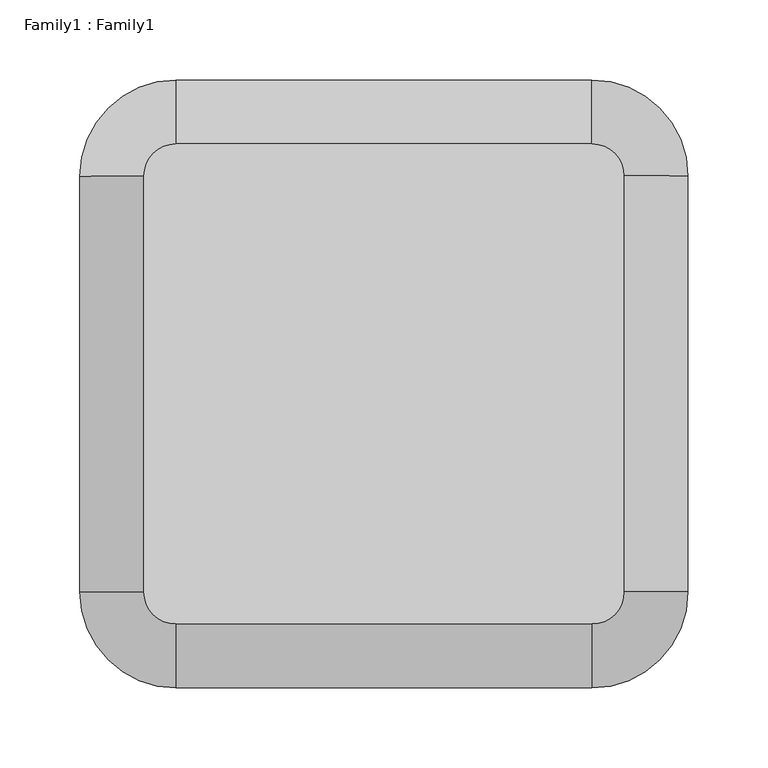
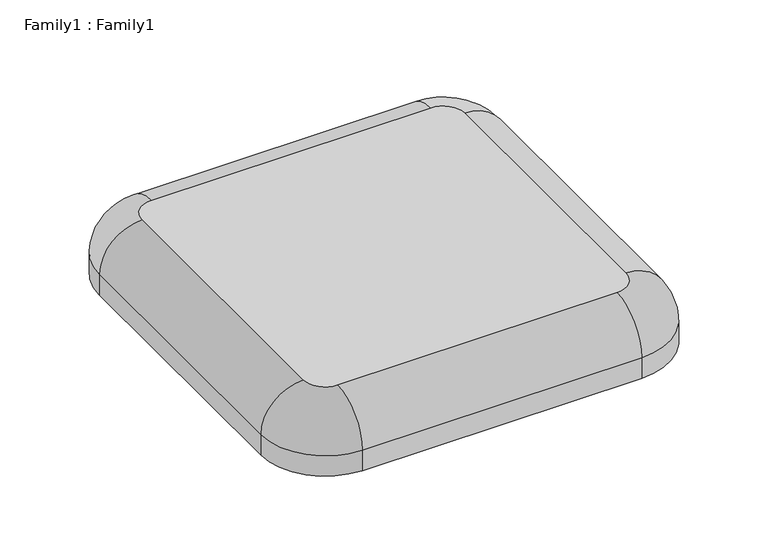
"""IFC4 building model written with IfcOpenShell, lengths in millimetres: proxy geometry, Family1 : Family1."""

from ifc_helpers import new_model, si_unit, point, frame, origin, place, context, project, spatial, circle_curve, ellipse_curve, trimmed, source, transform, mapped, element, save
from ifc_brep_helpers import plane_surface, cylinder_surface, revolved_surface, advanced_brep


def family1_family1_ad3effce(model_context):
    return source(origin(), model_context, "Body", "AdvancedBrep", [
        advanced_brep(
        [(-130.0, 150.0, 60.0), (-150.0, 130.0, 60.0), (-150.0, -130.0, 60.0), (-130.0, -150.0, 60.0), (130.0, -150.0, 60.0), (150.0, -130.0, 60.0), (150.0, 130.0, 60.0), (130.0, 150.0, 60.0), (-190.0, 130.0, 0.0), (-130.0, 190.0, 0.0), (130.0, 190.0, 0.0), (190.0, 130.0, 0.0), (190.0, -130.0, 0.0), (130.0, -190.0, 0.0), (-130.0, -190.0, 0.0), (-190.0, -130.0, 0.0), (-190.0, 130.0, 20.0), (-130.0, 190.0, 20.0), (-190.0, -130.0, 20.0), (-130.0, -190.0, 20.0), (130.0, -190.0, 20.0), (190.0, -130.0, 20.0), (190.0, 130.0, 20.0), (130.0, 190.0, 20.0)],
        [
            (0, 1, circle_curve(frame((-130.0, 130.0, 60.0), z_axis=(0.0, 0.0, 1.0), x_axis=(0.0, 1.0, 0.0)), 20.0)),
            (1, 2),
            (2, 3, circle_curve(frame((-130.0, -130.0, 60.0), z_axis=(0.0, 0.0, 1.0), x_axis=(-1.0, 0.0, 0.0)), 20.0)),
            (3, 4),
            (4, 5, circle_curve(frame((130.0, -130.0, 60.0), z_axis=(0.0, 0.0, 1.0), x_axis=(0.0, -1.0, 0.0)), 20.0)),
            (5, 6),
            (6, 7, circle_curve(frame((130.0, 130.0, 60.0), z_axis=(0.0, 0.0, 1.0), x_axis=(1.0, 0.0, 0.0)), 20.0)),
            (7, 0),
            (8, 9, circle_curve(frame((-130.0, 130.0, 0.0), z_axis=(0.0, 0.0, -1.0), x_axis=(0.0, 1.0, 0.0)), 60.0)),
            (9, 10),
            (10, 11, circle_curve(frame((130.0, 130.0, 0.0), z_axis=(0.0, 0.0, -1.0), x_axis=(1.0, 0.0, 0.0)), 60.0)),
            (11, 12),
            (12, 13, circle_curve(frame((130.0, -130.0, 0.0), z_axis=(0.0, 0.0, -1.0), x_axis=(0.0, -1.0, 0.0)), 60.0)),
            (13, 14),
            (14, 15, circle_curve(frame((-130.0, -130.0, 0.0), z_axis=(0.0, 0.0, -1.0), x_axis=(-1.0, 0.0, 0.0)), 60.0)),
            (15, 8),
            (16, 17, circle_curve(frame((-130.0, 130.0, 20.0), z_axis=(0.0, 0.0, -1.0), x_axis=(0.0, 1.0, 0.0)), 60.0)),
            (17, 9),
            (8, 16),
            (16, 1, circle_curve(frame((-150.0, 130.0, 20.0), z_axis=(0.0, 1.0, 0.0), x_axis=(1.0, 0.0, 0.0)), 40.0)),
            (0, 17, circle_curve(frame((-130.0, 150.0, 20.0), z_axis=(-1.0, 0.0, 0.0), x_axis=(0.0, -1.0, 0.0)), 40.0)),
            (15, 18),
            (18, 16),
            (18, 2, circle_curve(frame((-150.0, -130.0, 20.0), z_axis=(0.0, 1.0, 0.0), x_axis=(1.0, 0.0, 0.0)), 40.0)),
            (14, 19),
            (19, 18, circle_curve(frame((-130.0, -130.0, 20.0), z_axis=(0.0, 0.0, -1.0), x_axis=(-1.0, 0.0, 0.0)), 60.0)),
            (19, 3, circle_curve(frame((-130.0, -150.0, 20.0), z_axis=(-1.0, 0.0, 0.0), x_axis=(0.0, 1.0, 0.0)), 40.0)),
            (13, 20),
            (20, 19),
            (20, 4, circle_curve(frame((130.0, -150.0, 20.0), z_axis=(-1.0, 0.0, 0.0), x_axis=(0.0, 1.0, 0.0)), 40.0)),
            (12, 21),
            (21, 20, circle_curve(frame((130.0, -130.0, 20.0), z_axis=(0.0, 0.0, -1.0), x_axis=(0.0, -1.0, 0.0)), 60.0)),
            (21, 5, circle_curve(frame((150.0, -130.0, 20.0), z_axis=(0.0, -1.0, 0.0), x_axis=(-1.0, 0.0, 0.0)), 40.0)),
            (11, 22),
            (22, 21),
            (22, 6, circle_curve(frame((150.0, 130.0, 20.0), z_axis=(0.0, -1.0, 0.0), x_axis=(-1.0, 0.0, 0.0)), 40.0)),
            (10, 23),
            (23, 22, circle_curve(frame((130.0, 130.0, 20.0), z_axis=(0.0, 0.0, -1.0), x_axis=(1.0, 0.0, 0.0)), 60.0)),
            (23, 7, circle_curve(frame((130.0, 150.0, 20.0), z_axis=(1.0, 0.0, 0.0), x_axis=(0.0, -1.0, 0.0)), 40.0)),
            (17, 23),
        ],
        [
            plane_surface(frame((-110.0, 130.0, 60.0), z_axis=(0.0, 0.0, 1.0), x_axis=(0.0, 1.0, 0.0))),
            plane_surface(frame((-110.0, 130.0, 0.0), z_axis=(0.0, 0.0, -1.0), x_axis=(0.0, -1.0, 0.0))),
            cylinder_surface(frame((-130.0, 130.0, 0.0), z_axis=(0.0, 0.0, 1.0), x_axis=(0.0, 1.0, 0.0)), 60.0),
            revolved_surface(trimmed(ellipse_curve(frame((-130.0, 150.0, 20.0), z_axis=(1.0, 0.0, 0.0), x_axis=(0.0, -1.0, 0.0)), 40.0, 40.0), [point((-130.0, 190.0, 20.0))], [point((-130.0, 150.0, 60.0))], True, "CARTESIAN"), (-130.0, 130.0, 0.0), (0.0, 0.0, 1.0)),
            plane_surface(frame((-190.0, 130.0, 0.0), z_axis=(-1.0, 0.0, 0.0), x_axis=(0.0, -1.0, 0.0))),
            cylinder_surface(frame((-150.0, 130.0, 20.0), z_axis=(0.0, 1.0, 0.0), x_axis=(1.0, 0.0, 0.0)), 40.0),
            cylinder_surface(frame((-130.0, -130.0, 0.0), z_axis=(0.0, 0.0, 1.0), x_axis=(-1.0, 0.0, 0.0)), 60.0),
            revolved_surface(trimmed(ellipse_curve(frame((-150.0, -130.0, 20.0), z_axis=(0.0, 1.0, 0.0), x_axis=(1.0, 0.0, 0.0)), 40.0, 40.0), [point((-190.0, -130.0, 20.0))], [point((-150.0, -130.0, 60.0))], True, "CARTESIAN"), (-130.0, -130.0, 0.0), (0.0, 0.0, 1.0)),
            plane_surface(frame((-130.0, -190.0, 0.0), z_axis=(0.0, -1.0, 0.0), x_axis=(1.0, 0.0, 0.0))),
            cylinder_surface(frame((-130.0, -150.0, 20.0), z_axis=(-1.0, 0.0, 0.0), x_axis=(0.0, 1.0, 0.0)), 40.0),
            cylinder_surface(frame((130.0, -130.0, 0.0), z_axis=(0.0, 0.0, 1.0), x_axis=(0.0, -1.0, 0.0)), 60.0),
            revolved_surface(trimmed(ellipse_curve(frame((130.0, -150.0, 20.0), z_axis=(-1.0, 0.0, 0.0), x_axis=(0.0, 1.0, 0.0)), 40.0, 40.0), [point((130.0, -190.0, 20.0))], [point((130.0, -150.0, 60.0))], True, "CARTESIAN"), (130.0, -130.0, 0.0), (0.0, 0.0, 1.0)),
            plane_surface(frame((190.0, -130.0, 0.0), z_axis=(1.0, 0.0, 0.0), x_axis=(0.0, 1.0, 0.0))),
            cylinder_surface(frame((150.0, -130.0, 20.0), z_axis=(0.0, -1.0, 0.0), x_axis=(-1.0, 0.0, 0.0)), 40.0),
            cylinder_surface(frame((130.0, 130.0, 0.0), z_axis=(0.0, 0.0, 1.0), x_axis=(1.0, 0.0, 0.0)), 60.0),
            revolved_surface(trimmed(ellipse_curve(frame((150.0, 130.0, 20.0), z_axis=(0.0, -1.0, 0.0), x_axis=(-1.0, 0.0, 0.0)), 40.0, 40.0), [point((190.0, 130.0, 20.0))], [point((150.0, 130.0, 60.0))], True, "CARTESIAN"), (130.0, 130.0, 0.0), (0.0, 0.0, 1.0)),
            plane_surface(frame((130.0, 190.0, 0.0), z_axis=(0.0, 1.0, 0.0), x_axis=(-1.0, 0.0, 0.0))),
            cylinder_surface(frame((130.0, 150.0, 20.0), z_axis=(1.0, 0.0, 0.0), x_axis=(0.0, -1.0, 0.0)), 40.0),
        ],
        [
            (0, [[1, 2, 3, 4, 5, 6, 7, 8]]),
            (1, [[9, 10, 11, 12, 13, 14, 15, 16]]),
            (2, [[17, 18, -9, 19]]),
            (3, [[-17, 20, -1, 21]]),
            (4, [[-19, -16, 22, 23]]),
            (5, [[-20, -23, 24, -2]]),
            (6, [[-22, -15, 25, 26]]),
            (7, [[-24, -26, 27, -3]]),
            (8, [[-25, -14, 28, 29]]),
            (9, [[-27, -29, 30, -4]]),
            (10, [[-28, -13, 31, 32]]),
            (11, [[-30, -32, 33, -5]]),
            (12, [[-31, -12, 34, 35]]),
            (13, [[-33, -35, 36, -6]]),
            (14, [[-34, -11, 37, 38]]),
            (15, [[-36, -38, 39, -7]]),
            (16, [[-18, 40, -37, -10]]),
            (17, [[-21, -8, -39, -40]]),
        ],
    ),
    ])


if __name__ == "__main__":
    model = new_model("IFC4")
    model_context = context("Model", 3, world=origin())
    ifc_project = project(units=[si_unit("LENGTHUNIT", "METRE", prefix="MILLI")], contexts=[model_context])
    site = spatial("IfcSite", under=ifc_project)
    building = spatial("IfcBuilding", under=site)
    placement = place(None, origin())
    family1_family1_shape = family1_family1_ad3effce(model_context)
    element("IfcBuildingElementProxy", 1, Name="Family1 : Family1", ObjectType="Family1 : Family1", at=placement, inside=building, context=model_context, shape_type="MappedRepresentation", body=[
        mapped(family1_family1_shape, transform((0.0, 0.0, 0.0), x_axis=(1.0, 0.0, 0.0), y_axis=(0.0, 1.0, 0.0), z_axis=(0.0, 0.0, 1.0))),
    ])
    save(model, "model.ifc")
